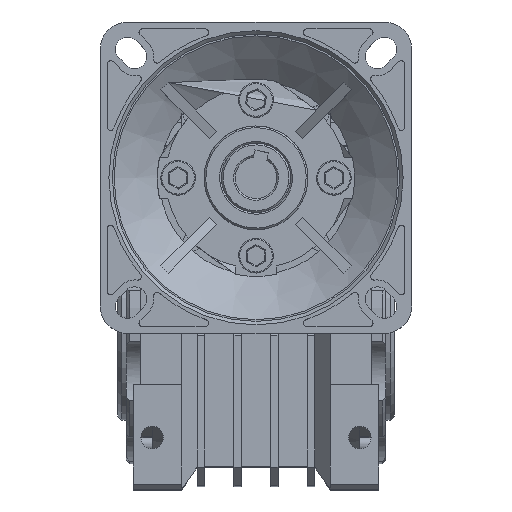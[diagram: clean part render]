
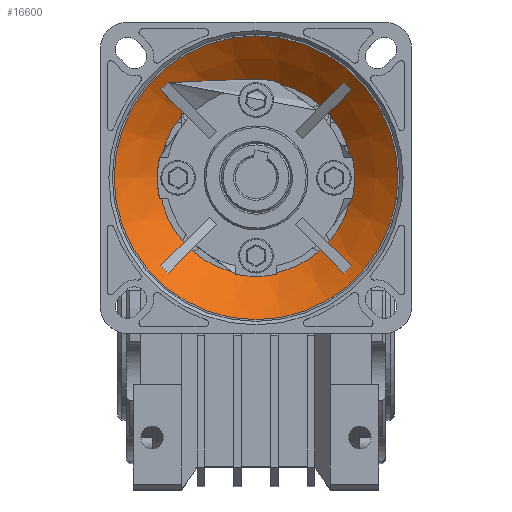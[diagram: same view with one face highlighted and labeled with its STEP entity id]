
A CAD part, top view. The second image highlights one B-rep face of the part: STEP entity #16600.
In plain terms, the highlighted conical face has half-angle 49.574 degrees and reference radius 34.75 mm.
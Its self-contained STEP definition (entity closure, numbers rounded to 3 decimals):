
#210=CONICAL_SURFACE('',#17777,34.75,0.865);
#1093=FACE_OUTER_BOUND('',#2024,.T.);
#2024=EDGE_LOOP('',(#11463,#11464,#11465,#11466,#11467,#11468,#11469,#11470,
#11471,#11472,#11473,#11474,#11475,#11476,#11477,#11478));
#3115=LINE('',#25019,#4594);
#4594=VECTOR('',#20210,34.75);
#5834=CIRCLE('',#17497,28.);
#5837=CIRCLE('',#17501,28.);
#5838=CIRCLE('',#17502,28.);
#5842=CIRCLE('',#17507,28.);
#5846=CIRCLE('',#17512,28.);
#5851=CIRCLE('',#17518,28.);
#5858=CIRCLE('',#17526,28.);
#5990=CIRCLE('',#17778,41.5);
#5991=CIRCLE('',#17779,28.);
#5992=CIRCLE('',#17780,28.);
#5993=CIRCLE('',#17781,28.);
#5994=CIRCLE('',#17782,28.);
#5995=CIRCLE('',#17783,28.);
#5996=CIRCLE('',#17784,28.);
#6620=VERTEX_POINT('',#24260);
#6624=VERTEX_POINT('',#24267);
#6628=VERTEX_POINT('',#24276);
#6629=VERTEX_POINT('',#24278);
#6630=VERTEX_POINT('',#24280);
#6635=VERTEX_POINT('',#24291);
#6636=VERTEX_POINT('',#24293);
#6640=VERTEX_POINT('',#24303);
#6642=VERTEX_POINT('',#24306);
#6647=VERTEX_POINT('',#24317);
#6648=VERTEX_POINT('',#24319);
#6651=VERTEX_POINT('',#24327);
#6658=VERTEX_POINT('',#24340);
#6866=VERTEX_POINT('',#25017);
#8248=EDGE_CURVE('',#6624,#6620,#5834,.T.);
#8252=EDGE_CURVE('',#6628,#6629,#5837,.T.);
#8253=EDGE_CURVE('',#6629,#6630,#5838,.T.);
#8259=EDGE_CURVE('',#6635,#6636,#5842,.T.);
#8265=EDGE_CURVE('',#6640,#6642,#5846,.T.);
#8271=EDGE_CURVE('',#6647,#6648,#5851,.T.);
#8282=EDGE_CURVE('',#6658,#6651,#5858,.T.);
#8602=EDGE_CURVE('',#6866,#6866,#5990,.T.);
#8603=EDGE_CURVE('',#6866,#6629,#3115,.T.);
#8604=EDGE_CURVE('',#6636,#6628,#5991,.T.);
#8605=EDGE_CURVE('',#6642,#6635,#5992,.T.);
#8606=EDGE_CURVE('',#6648,#6640,#5993,.T.);
#8607=EDGE_CURVE('',#6651,#6647,#5994,.T.);
#8608=EDGE_CURVE('',#6620,#6658,#5995,.T.);
#8609=EDGE_CURVE('',#6630,#6624,#5996,.T.);
#11463=ORIENTED_EDGE('',*,*,#8602,.F.);
#11464=ORIENTED_EDGE('',*,*,#8603,.T.);
#11465=ORIENTED_EDGE('',*,*,#8252,.F.);
#11466=ORIENTED_EDGE('',*,*,#8604,.F.);
#11467=ORIENTED_EDGE('',*,*,#8259,.F.);
#11468=ORIENTED_EDGE('',*,*,#8605,.F.);
#11469=ORIENTED_EDGE('',*,*,#8265,.F.);
#11470=ORIENTED_EDGE('',*,*,#8606,.F.);
#11471=ORIENTED_EDGE('',*,*,#8271,.F.);
#11472=ORIENTED_EDGE('',*,*,#8607,.F.);
#11473=ORIENTED_EDGE('',*,*,#8282,.F.);
#11474=ORIENTED_EDGE('',*,*,#8608,.F.);
#11475=ORIENTED_EDGE('',*,*,#8248,.F.);
#11476=ORIENTED_EDGE('',*,*,#8609,.F.);
#11477=ORIENTED_EDGE('',*,*,#8253,.F.);
#11478=ORIENTED_EDGE('',*,*,#8603,.F.);
#16600=ADVANCED_FACE('',(#1093),#210,.T.);
#17497=AXIS2_PLACEMENT_3D('',#24269,#19468,#19469);
#17501=AXIS2_PLACEMENT_3D('',#24279,#19477,#19478);
#17502=AXIS2_PLACEMENT_3D('',#24281,#19479,#19480);
#17507=AXIS2_PLACEMENT_3D('',#24294,#19491,#19492);
#17512=AXIS2_PLACEMENT_3D('',#24307,#19503,#19504);
#17518=AXIS2_PLACEMENT_3D('',#24320,#19516,#19517);
#17526=AXIS2_PLACEMENT_3D('',#24342,#19536,#19537);
#17777=AXIS2_PLACEMENT_3D('',#25016,#20206,#20207);
#17778=AXIS2_PLACEMENT_3D('',#25018,#20208,#20209);
#17779=AXIS2_PLACEMENT_3D('',#25020,#20211,#20212);
#17780=AXIS2_PLACEMENT_3D('',#25021,#20213,#20214);
#17781=AXIS2_PLACEMENT_3D('',#25022,#20215,#20216);
#17782=AXIS2_PLACEMENT_3D('',#25023,#20217,#20218);
#17783=AXIS2_PLACEMENT_3D('',#25024,#20219,#20220);
#17784=AXIS2_PLACEMENT_3D('',#25025,#20221,#20222);
#19468=DIRECTION('center_axis',(0.,0.,
-1.));
#19469=DIRECTION('ref_axis',(1.,0.,0.));
#19477=DIRECTION('center_axis',(0.,0.,
-1.));
#19478=DIRECTION('ref_axis',(1.,0.,0.));
#19479=DIRECTION('center_axis',(0.,0.,
-1.));
#19480=DIRECTION('ref_axis',(1.,0.,0.));
#19491=DIRECTION('center_axis',(0.,0.,
-1.));
#19492=DIRECTION('ref_axis',(1.,0.,0.));
#19503=DIRECTION('center_axis',(0.,0.,
-1.));
#19504=DIRECTION('ref_axis',(1.,0.,0.));
#19516=DIRECTION('center_axis',(0.,0.,
-1.));
#19517=DIRECTION('ref_axis',(1.,0.,0.));
#19536=DIRECTION('center_axis',(0.,0.,
-1.));
#19537=DIRECTION('ref_axis',(1.,0.,0.));
#20206=DIRECTION('center_axis',(0.,0.,
1.));
#20207=DIRECTION('ref_axis',(1.,0.,0.));
#20208=DIRECTION('center_axis',(0.,0.,
1.));
#20209=DIRECTION('ref_axis',(1.,0.,0.));
#20210=DIRECTION('',(0.761,0.,-0.648));
#20211=DIRECTION('center_axis',(0.,0.,-1.));
#20212=DIRECTION('ref_axis',(1.,0.,0.));
#20213=DIRECTION('center_axis',(0.,0.,-1.));
#20214=DIRECTION('ref_axis',(1.,0.,0.));
#20215=DIRECTION('center_axis',(0.,0.,-1.));
#20216=DIRECTION('ref_axis',(1.,0.,0.));
#20217=DIRECTION('center_axis',(0.,0.,-1.));
#20218=DIRECTION('ref_axis',(1.,0.,0.));
#20219=DIRECTION('center_axis',(0.,0.,-1.));
#20220=DIRECTION('ref_axis',(1.,0.,0.));
#20221=DIRECTION('center_axis',(0.,0.,-1.));
#20222=DIRECTION('ref_axis',(1.,0.,0.));
#24260=CARTESIAN_POINT('',(-20.8,58.745,50.5));
#24267=CARTESIAN_POINT('',(-21.5,57.937,50.5));
#24269=CARTESIAN_POINT('Origin',(0.,40.,
50.5));
#24276=CARTESIAN_POINT('',(-20.8,21.255,50.5));
#24278=CARTESIAN_POINT('',(-28.,40.,50.5));
#24279=CARTESIAN_POINT('Origin',(0.,40.,
50.5));
#24280=CARTESIAN_POINT('',(-27.977,41.125,50.5));
#24281=CARTESIAN_POINT('Origin',(0.,40.,
50.5));
#24291=CARTESIAN_POINT('',(18.745,19.2,50.5));
#24293=CARTESIAN_POINT('',(-18.745,19.2,50.5));
#24294=CARTESIAN_POINT('Origin',(0.,40.,
50.5));
#24303=CARTESIAN_POINT('',(27.977,41.125,50.5));
#24306=CARTESIAN_POINT('',(20.8,21.255,50.5));
#24307=CARTESIAN_POINT('Origin',(0.,40.,
50.5));
#24317=CARTESIAN_POINT('',(20.8,58.745,50.5));
#24319=CARTESIAN_POINT('',(21.5,57.937,50.5));
#24320=CARTESIAN_POINT('Origin',(0.,40.,
50.5));
#24327=CARTESIAN_POINT('',(18.745,60.8,50.5));
#24340=CARTESIAN_POINT('',(-18.745,60.8,50.5));
#24342=CARTESIAN_POINT('Origin',(0.,40.,
50.5));
#25016=CARTESIAN_POINT('Origin',(0.,40.,
56.25));
#25017=CARTESIAN_POINT('',(-41.5,40.,62.));
#25018=CARTESIAN_POINT('Origin',(0.,40.,
62.));
#25019=CARTESIAN_POINT('',(-34.75,40.,56.25));
#25020=CARTESIAN_POINT('Origin',(0.,40.,
50.5));
#25021=CARTESIAN_POINT('Origin',(0.,40.,
50.5));
#25022=CARTESIAN_POINT('Origin',(0.,40.,
50.5));
#25023=CARTESIAN_POINT('Origin',(0.,40.,
50.5));
#25024=CARTESIAN_POINT('Origin',(0.,40.,
50.5));
#25025=CARTESIAN_POINT('Origin',(0.,40.,
50.5));
